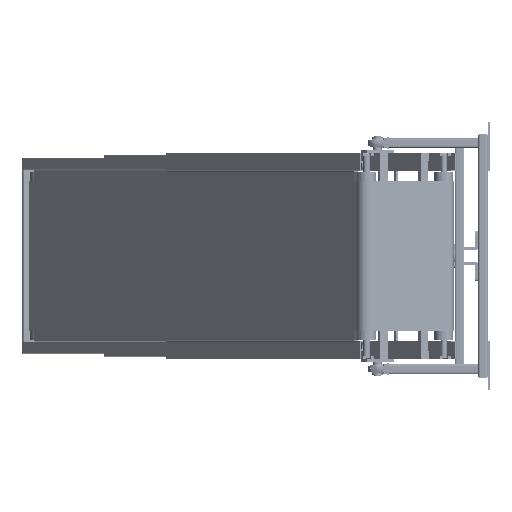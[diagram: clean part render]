
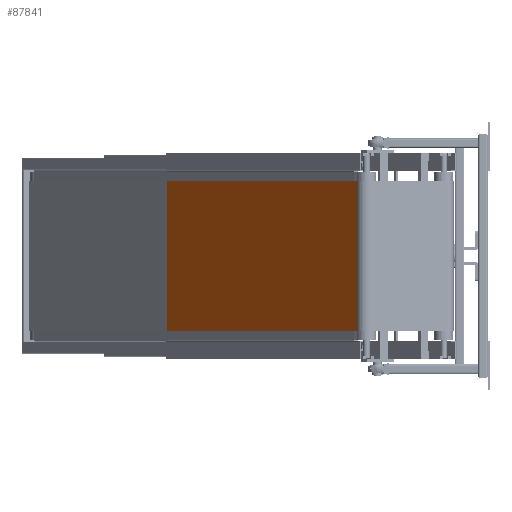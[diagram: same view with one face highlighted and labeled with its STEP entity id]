
A CAD part, left-side view. The second image highlights one B-rep face of the part: STEP entity #87841.
In plain terms, the highlighted planar face has unit normal (-0.208, 0.978, 0) as drawn and (0, 1, 0) by its records, which use the part's own axes.
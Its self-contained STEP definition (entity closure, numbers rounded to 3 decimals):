
#15093=PLANE('',#366689);
#49042=LINE('',#559898,#66638);
#49057=LINE('',#559953,#66653);
#49073=LINE('',#560012,#66669);
#49074=LINE('',#560014,#66670);
#66638=VECTOR('',#456202,1.);
#66653=VECTOR('',#456249,1.);
#66669=VECTOR('',#456299,1.);
#66670=VECTOR('',#456302,1.);
#87841=ADVANCED_FACE('',(#106191),#15093,.T.);
#106191=FACE_OUTER_BOUND('',#129100,.T.);
#129100=EDGE_LOOP('',(#224757,#224758,#224759,#224760));
#224757=ORIENTED_EDGE('',*,*,#315020,.F.);
#224758=ORIENTED_EDGE('',*,*,#315082,.F.);
#224759=ORIENTED_EDGE('',*,*,#315050,.T.);
#224760=ORIENTED_EDGE('',*,*,#315083,.T.);
#274075=VERTEX_POINT('',#559897);
#274076=VERTEX_POINT('',#559899);
#274100=VERTEX_POINT('',#559954);
#274101=VERTEX_POINT('',#559955);
#315020=EDGE_CURVE('',#274075,#274076,#49042,.T.);
#315050=EDGE_CURVE('',#274100,#274101,#49057,.T.);
#315082=EDGE_CURVE('',#274100,#274075,#49073,.T.);
#315083=EDGE_CURVE('',#274101,#274076,#49074,.T.);
#366689=AXIS2_PLACEMENT_3D('',#560015,#456303,#456304);
#456202=DIRECTION('',(-1.,0.,0.));
#456249=DIRECTION('',(-1.,0.,0.));
#456299=DIRECTION('',(0.,0.,1.));
#456302=DIRECTION('',(0.,0.,1.));
#456303=DIRECTION('',(0.,1.,0.));
#456304=DIRECTION('',(1.,0.,0.));
#559897=CARTESIAN_POINT('',(0.048,53.976,400.));
#559898=CARTESIAN_POINT('',(-4849.279,55.285,400.));
#559899=CARTESIAN_POINT('',(-4849.279,55.285,400.));
#559953=CARTESIAN_POINT('',(-4849.279,55.285,-400.));
#559954=CARTESIAN_POINT('',(0.048,53.976,-400.));
#559955=CARTESIAN_POINT('',(-4849.279,55.285,-400.));
#560012=CARTESIAN_POINT('',(0.048,53.976,-400.));
#560014=CARTESIAN_POINT('',(-4849.279,55.285,-400.));
#560015=CARTESIAN_POINT('',(-4849.279,55.285,-400.));
